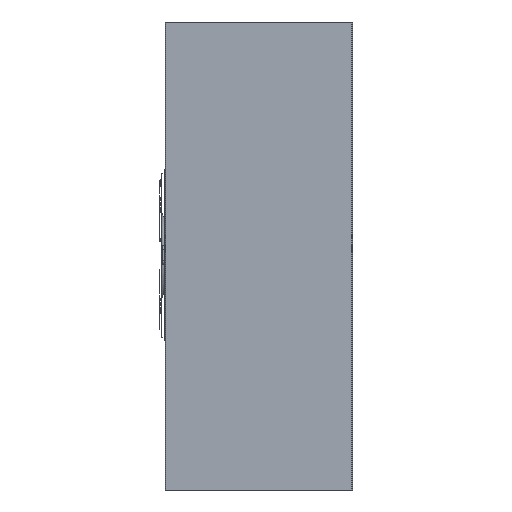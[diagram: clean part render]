
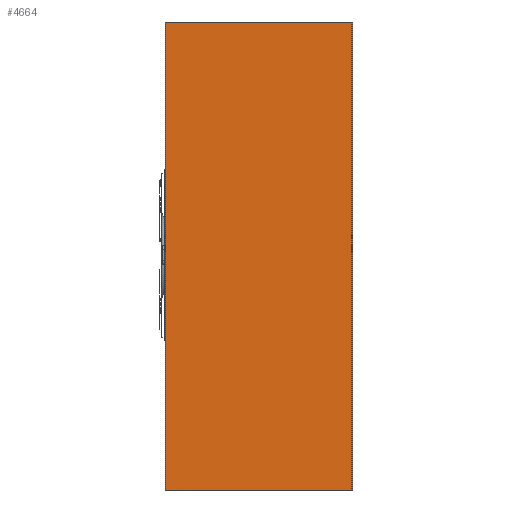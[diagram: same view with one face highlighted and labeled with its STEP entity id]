
A CAD part, front view. The second image highlights one B-rep face of the part: STEP entity #4664.
In plain terms, the highlighted planar face has unit normal (0, -1, 0).
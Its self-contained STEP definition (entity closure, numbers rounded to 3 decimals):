
#4033=DIRECTION('',(-1.,0.,0.));
#4034=VECTOR('',#4033,99.4);
#4035=CARTESIAN_POINT('',(96.7,-3.7,124.571));
#4036=LINE('',#4035,#4034);
#4120=DIRECTION('',(-1.,0.,0.));
#4121=VECTOR('',#4120,99.4);
#4122=CARTESIAN_POINT('',(96.7,-3.7,-125.429));
#4123=LINE('',#4122,#4121);
#4264=DIRECTION('',(0.,0.,1.));
#4265=VECTOR('',#4264,250.);
#4266=CARTESIAN_POINT('',(96.7,-3.7,-125.429));
#4267=LINE('',#4266,#4265);
#4268=DIRECTION('',(0.,0.,1.));
#4269=VECTOR('',#4268,250.);
#4270=CARTESIAN_POINT('',(-2.7,-3.7,-125.429));
#4271=LINE('',#4270,#4269);
#4308=CARTESIAN_POINT('',(96.7,-3.7,124.571));
#4310=VERTEX_POINT('',#4308);
#4314=CARTESIAN_POINT('',(96.7,-3.7,-125.429));
#4315=VERTEX_POINT('',#4314);
#4325=CARTESIAN_POINT('',(-2.7,-3.7,124.571));
#4327=VERTEX_POINT('',#4325);
#4328=CARTESIAN_POINT('',(-2.7,-3.7,-125.429));
#4329=VERTEX_POINT('',#4328);
#4652=CARTESIAN_POINT('',(97.,-3.7,124.571));
#4653=DIRECTION('',(0.,-1.,0.));
#4654=DIRECTION('',(-1.,0.,0.));
#4655=AXIS2_PLACEMENT_3D('',#4652,#4653,#4654);
#4656=PLANE('',#4655);
#4657=ORIENTED_EDGE('',*,*,#4647,.F.);
#4658=ORIENTED_EDGE('',*,*,#4467,.T.);
#4660=ORIENTED_EDGE('',*,*,#4659,.T.);
#4661=ORIENTED_EDGE('',*,*,#4409,.F.);
#4662=EDGE_LOOP('',(#4657,#4658,#4660,#4661));
#4663=FACE_OUTER_BOUND('',#4662,.F.);
#4664=ADVANCED_FACE('',(#4663),#4656,.T.);
#4409=EDGE_CURVE('',#4310,#4327,#4036,.T.);
#4467=EDGE_CURVE('',#4315,#4329,#4123,.T.);
#4647=EDGE_CURVE('',#4315,#4310,#4267,.T.);
#4659=EDGE_CURVE('',#4329,#4327,#4271,.T.);
